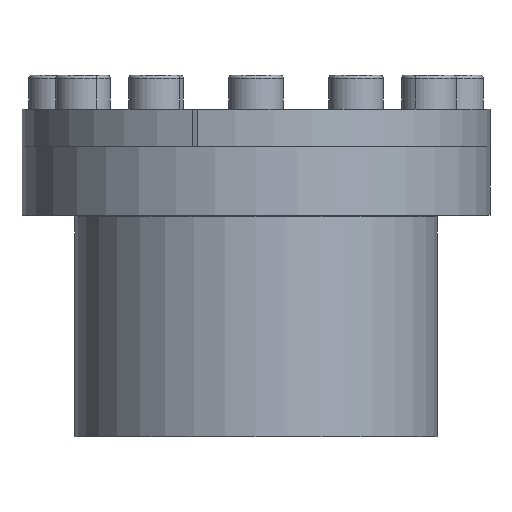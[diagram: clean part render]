
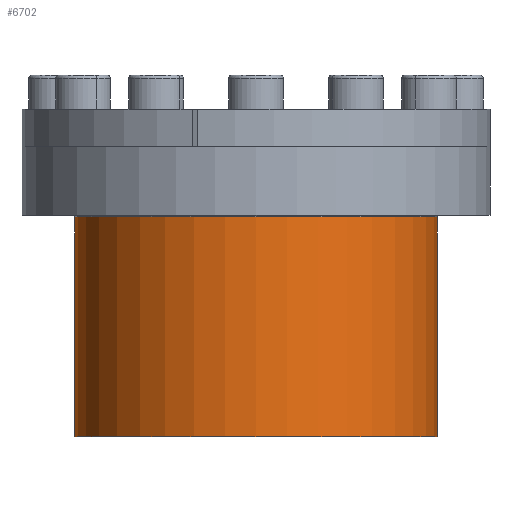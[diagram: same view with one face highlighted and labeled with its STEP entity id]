
A CAD part, front view. The second image highlights one B-rep face of the part: STEP entity #6702.
In plain terms, the highlighted cylindrical face has radius 53 mm (diameter 106 mm), a partial arc.
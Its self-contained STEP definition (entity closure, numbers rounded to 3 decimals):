
#253 = CIRCLE ( 'NONE', #9804, 53. ) ;
#270 = ORIENTED_EDGE ( 'NONE', *, *, #8143, .F. ) ;
#465 = CARTESIAN_POINT ( 'NONE',  ( 0., 0., -13. ) ) ;
#684 = ORIENTED_EDGE ( 'NONE', *, *, #3501, .F. ) ;
#750 = VERTEX_POINT ( 'NONE', #6050 ) ;
#1029 = DIRECTION ( 'NONE',  ( 0., 0., -1. ) ) ;
#1059 = CARTESIAN_POINT ( 'NONE',  ( 0., 0., -78. ) ) ;
#1292 = EDGE_CURVE ( 'NONE', #12735, #2087, #11458, .T. ) ;
#2087 = VERTEX_POINT ( 'NONE', #5687 ) ;
#2448 = DIRECTION ( 'NONE',  ( -1., 0., 0. ) ) ;
#3501 = EDGE_CURVE ( 'NONE', #750, #2087, #253, .T. ) ;
#3725 = EDGE_LOOP ( 'NONE', ( #270, #14835, #5255, #684 ) ) ;
#4064 = LINE ( 'NONE', #13137, #11143 ) ;
#4115 = CARTESIAN_POINT ( 'NONE',  ( -53., 0., -13.6 ) ) ;
#4706 = DIRECTION ( 'NONE',  ( 0., 0., -1. ) ) ;
#5255 = ORIENTED_EDGE ( 'NONE', *, *, #1292, .T. ) ;
#5543 = CARTESIAN_POINT ( 'NONE',  ( 53., 0., -13.6 ) ) ;
#5687 = CARTESIAN_POINT ( 'NONE',  ( -53., 0., -78. ) ) ;
#5982 = DIRECTION ( 'NONE',  ( 0., 0., -1. ) ) ;
#6050 = CARTESIAN_POINT ( 'NONE',  ( 53., 0., -78. ) ) ;
#6702 = ADVANCED_FACE ( 'NONE', ( #10912 ), #16173, .T. ) ;
#8143 = EDGE_CURVE ( 'NONE', #12146, #750, #4064, .T. ) ;
#8915 = DIRECTION ( 'NONE',  ( 0., 0., -1. ) ) ;
#8969 = DIRECTION ( 'NONE',  ( -1., 0., 0. ) ) ;
#9381 = AXIS2_PLACEMENT_3D ( 'NONE', #465, #8915, #8969 ) ;
#9771 = CIRCLE ( 'NONE', #10988, 53. ) ;
#9804 = AXIS2_PLACEMENT_3D ( 'NONE', #1059, #10908, #2448 ) ;
#10908 = DIRECTION ( 'NONE',  ( 0., 0., -1. ) ) ;
#10912 = FACE_OUTER_BOUND ( 'NONE', #3725, .T. ) ;
#10988 = AXIS2_PLACEMENT_3D ( 'NONE', #14423, #5982, #15856 ) ;
#11143 = VECTOR ( 'NONE', #4706, 1000. ) ;
#11458 = LINE ( 'NONE', #16396, #15180 ) ;
#12146 = VERTEX_POINT ( 'NONE', #5543 ) ;
#12278 = EDGE_CURVE ( 'NONE', #12146, #12735, #9771, .T. ) ;
#12735 = VERTEX_POINT ( 'NONE', #4115 ) ;
#13137 = CARTESIAN_POINT ( 'NONE',  ( 53., 0., -13. ) ) ;
#14423 = CARTESIAN_POINT ( 'NONE',  ( 0., 0., -13.6 ) ) ;
#14835 = ORIENTED_EDGE ( 'NONE', *, *, #12278, .T. ) ;
#15180 = VECTOR ( 'NONE', #1029, 1000. ) ;
#15856 = DIRECTION ( 'NONE',  ( -1., 0., 0. ) ) ;
#16173 = CYLINDRICAL_SURFACE ( 'NONE', #9381, 53. ) ;
#16396 = CARTESIAN_POINT ( 'NONE',  ( -53., 0., -13. ) ) ;
